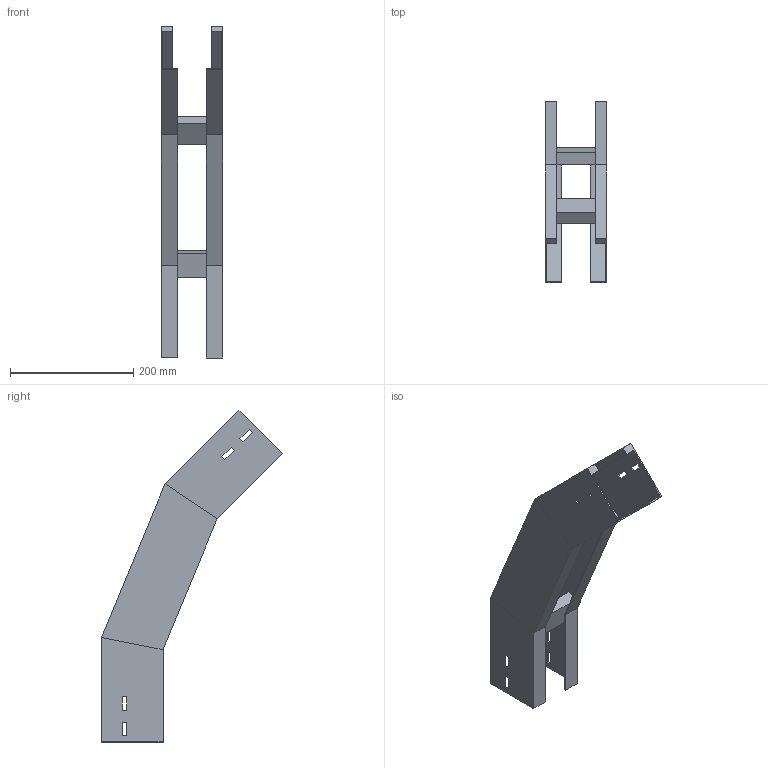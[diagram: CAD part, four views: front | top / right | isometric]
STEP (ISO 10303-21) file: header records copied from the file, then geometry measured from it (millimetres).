
FILE_DESCRIPTION (( 'STEP AP214' ), '1' );
FILE_NAME ('A2_34B3D100.step', '2025-02-21T14:51:23', ( '' ), ( '' ), 'SwSTEP 2.0', 'SolidWorks 2023', '' );
FILE_SCHEMA (( 'AUTOMOTIVE_DESIGN' ));
Length unit declared in the file: millimetre
Products named in the file (3): TRAVERSINO_100; A2_34B3D100; LONGH.DISCESA_45°_H100_R300
Assembly tree (5 placements, depth 2):
  A2_34B3D100
    LONGH.DISCESA_45°_H100_R300  x2
    TRAVERSINO_100  x3
Bounding box: 100 x 294.08 x 539.27 mm (x, y, z)
Volume: 744048.3 mm3; surface area: 364197.4 mm2
Topology: 5 solids, 5 shells, 102 faces, 244 edges, 152 vertices
Faces by surface type: plane 102
Entity records: 1480 total; most frequent: CARTESIAN_POINT 244, ORIENTED_EDGE 232, DIRECTION 228, EDGE_CURVE 116, VECTOR 116, LINE 116, VERTEX_POINT 72, EDGE_LOOP 56
